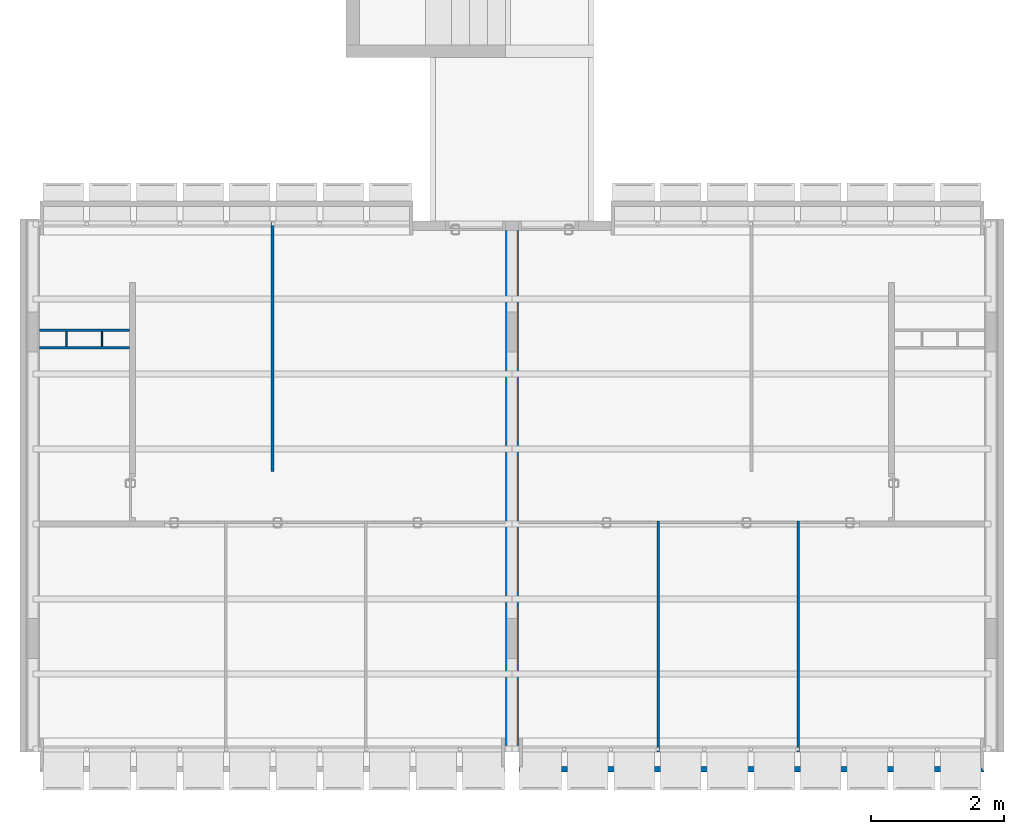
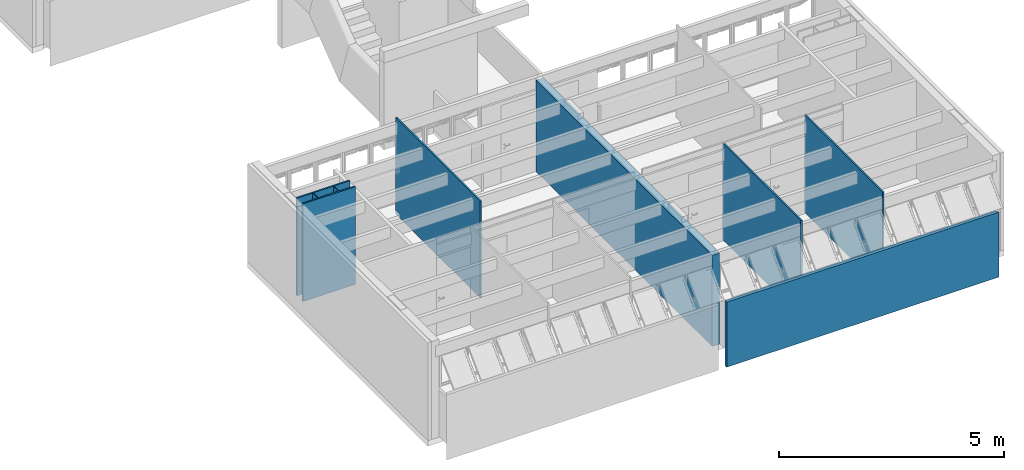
# One storey, part 22 of 41: 9 walls.
"""IFC4 building model written with IfcOpenShell, lengths in millimetres."""

from ifc_helpers import new_model, entity, si_unit, converted_unit, derived_unit, direction, frame, origin_with_axes, place, context, subcontext, project, spatial, line, indexed_curve, outline, extrude, material, layer, layer_set, layer_usage, type_object, element, save


model = new_model("IFC4")

# Units and contexts
model_context = context("Model", 3, precision=0.01, world=origin_with_axes(), true_north=direction((0.0, 1.0)))
body_context = subcontext(model_context, "Body", "Model", "MODEL_VIEW")
ifc_project = project(units=[si_unit("LENGTHUNIT", "METRE", prefix="MILLI"), si_unit("AREAUNIT", "SQUARE_METRE"), si_unit("VOLUMEUNIT", "CUBIC_METRE"), converted_unit("PLANEANGLEUNIT", "DEGREE", entity("IfcPlaneAngleMeasure", 0.0174532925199), si_unit("PLANEANGLEUNIT", "RADIAN"), dimensions=[0, 0, 0, 0, 0, 0, 0]), converted_unit("TIMEUNIT", "Year", entity("IfcTimeMeasure", 31556926.0), si_unit("TIMEUNIT", "SECOND"), dimensions=[0, 0, 1, 0, 0, 0, 0]), si_unit("MASSUNIT", "GRAM", prefix="KILO"), si_unit("THERMODYNAMICTEMPERATUREUNIT", "DEGREE_CELSIUS"), si_unit("LUMINOUSINTENSITYUNIT", "LUMEN"), si_unit("ENERGYUNIT", "JOULE", prefix="MEGA"), derived_unit("THERMALCONDUCTANCEUNIT", [(si_unit("POWERUNIT", "WATT"), 1), (si_unit("LENGTHUNIT", "METRE"), -1), (si_unit("THERMODYNAMICTEMPERATUREUNIT", "KELVIN"), -1)]), derived_unit("SPECIFICHEATCAPACITYUNIT", [(si_unit("ENERGYUNIT", "JOULE"), 1), (si_unit("MASSUNIT", "GRAM", prefix="KILO"), -1), (si_unit("THERMODYNAMICTEMPERATUREUNIT", "KELVIN"), -1)]), derived_unit("MASSDENSITYUNIT", [(si_unit("MASSUNIT", "GRAM", prefix="KILO"), 1), (si_unit("VOLUMEUNIT", "CUBIC_METRE"), -1)])], contexts=[model_context])

# Site, building, storey
site_placement = place(None, origin_with_axes())
site = spatial("IfcSite", under=ifc_project, at=site_placement, Name="Local", CompositionType="ELEMENT")
building_placement = place(site_placement, origin_with_axes())
building = spatial("IfcBuilding", under=site, at=building_placement, Name="Construção", CompositionType="ELEMENT")
storey_placement = place(building_placement, frame((0.0, 0.0, 2650.0), z_axis=(0.0, 0.0, 1.0), x_axis=(1.0, 0.0, 0.0)))
storey = spatial("IfcBuildingStorey", under=building, at=storey_placement, Name="Segundo Pavimento", CompositionType="ELEMENT", Elevation=2650.0)

# Walls
ifc_material_1 = material(Name="GENÉRICO - VEDAÇÃO EXTERNA")
ifc_layer_1 = layer(ifc_material_1, 190.0, ventilated="UNKNOWN", Name="GENÉRICO - VEDAÇÃO EXTERNA")
ifc_layer_set_1 = layer_set([ifc_layer_1], Name="GENÉRICO - VEDAÇÃO EXTERNA 190")
ifc_layer_usage_1 = layer_usage(ifc_layer_set_1, "AXIS2", "NEGATIVE", 0.0)
wall_type_1 = type_object("IfcWallType", Name="GENÉRICO - VEDAÇÃO EXTERNA 190", PredefinedType="NOTDEFINED")
wall_1_placement = place(storey_placement, frame((7480.0, 8125.0, 0.0), z_axis=(0.0, 0.0, 1.0), x_axis=(0.0, -1.0, 0.0)))
element("IfcWall", 1, at=wall_1_placement, inside=storey, type_object=wall_type_1, material=ifc_layer_usage_1, Name="CIRC2-PAREDE-026", PredefinedType="NOTDEFINED", context=body_context, shape_type="SweptSolid", body=[
    extrude(outline(indexed_curve([(0.0, -190.0), (7825.0, -190.0), (7825.0, 0.0), (0.0, 0.0)], segments=[line(1, 2, 3, 4, 1)])), origin_with_axes(), (0.0, 0.0, 1.0), 2470.0),
])
ifc_layer_2 = layer(ifc_material_1, 40.0, ventilated="UNKNOWN", Name="GENÉRICO - VEDAÇÃO EXTERNA")
ifc_layer_set_2 = layer_set([ifc_layer_2], Name="GENÉRICO - VEDAÇÃO EXTERNA 40")
ifc_layer_usage_2 = layer_usage(ifc_layer_set_2, "AXIS2", "NEGATIVE", 40.0)
wall_type_2 = type_object("IfcWallType", Name="GENÉRICO - VEDAÇÃO EXTERNA 40", PredefinedType="NOTDEFINED")
wall_2_placement = place(storey_placement, frame((3810.0, 4505.0, 0.0), z_axis=(0.0, 0.0, 1.0), x_axis=(0.0, 1.0, 0.0)))
element("IfcWall", 2, at=wall_2_placement, inside=storey, type_object=wall_type_2, material=ifc_layer_usage_2, Name="APTO5-PAREDE-003", PredefinedType="NOTDEFINED", context=body_context, shape_type="SweptSolid", body=[
    extrude(outline(indexed_curve([(0.0, 0.0), (3750.0, 0.0), (3750.0, 40.0), (0.0, 40.0)], segments=[line(1, 2, 3, 4, 1)])), origin_with_axes(), (0.0, 0.0, 1.0), 2620.0),
])
ifc_layer_usage_3 = layer_usage(ifc_layer_set_2, "AXIS2", "NEGATIVE", 40.0)
wall_3_placement = place(storey_placement, frame((290.0, 6345.0, 0.0), z_axis=(0.0, 0.0, 1.0), x_axis=(1.0, 0.0, 0.0)))
element("IfcWall", 3, at=wall_3_placement, inside=storey, type_object=wall_type_2, material=ifc_layer_usage_3, Name="APTO5-PAREDE-011", PredefinedType="NOTDEFINED", context=body_context, shape_type="SweptSolid", body=[
    extrude(outline(indexed_curve([(0.0, 0.0), (1350.0, 0.0), (1350.0, 40.0), (0.0, 40.0)], segments=[line(1, 2, 3, 4, 1)])), origin_with_axes(), (0.0, 0.0, 1.0), 2650.0),
])
ifc_layer_usage_4 = layer_usage(ifc_layer_set_2, "AXIS2", "NEGATIVE", 40.0)
wall_4_placement = place(storey_placement, frame((1730.0, 6645.0, 0.0), z_axis=(0.0, 0.0, 1.0), x_axis=(-1.0, 0.0, 0.0)))
element("IfcWall", 4, at=wall_4_placement, inside=storey, type_object=wall_type_2, material=ifc_layer_usage_4, Name="APTO5-PAREDE-010", PredefinedType="NOTDEFINED", context=body_context, shape_type="SweptSolid", body=[
    extrude(outline(indexed_curve([(90.0, 0.0), (1440.0, 0.0), (1440.0, 40.0), (90.0, 40.0)], segments=[line(1, 2, 3, 4, 1)])), origin_with_axes(), (0.0, 0.0, 1.0), 2650.0),
])
ifc_layer_usage_5 = layer_usage(ifc_layer_set_2, "AXIS2", "POSITIVE", 0.0)
wall_5_placement = place(storey_placement, frame((9560.0, 3765.0, 0.0), z_axis=(0.0, 0.0, 1.0), x_axis=(0.0, -1.0, 0.0)))
element("IfcWall", 5, at=wall_5_placement, inside=storey, type_object=wall_type_2, material=ifc_layer_usage_5, Name="APTO6-PAREDE-005", PredefinedType="NOTDEFINED", context=body_context, shape_type="SweptSolid", body=[
    extrude(outline(indexed_curve([(0.0, 0.0), (3465.0, 0.0), (3465.0, 40.0), (0.0, 40.0)], segments=[line(1, 2, 3, 4, 1)])), origin_with_axes(), (0.0, 0.0, 1.0), 2620.0),
])
ifc_layer_usage_6 = layer_usage(ifc_layer_set_2, "AXIS2", "POSITIVE", 0.0)
wall_6_placement = place(storey_placement, frame((11660.0, 3765.0, 0.0), z_axis=(0.0, 0.0, 1.0), x_axis=(0.0, -1.0, 0.0)))
element("IfcWall", 6, at=wall_6_placement, inside=storey, type_object=wall_type_2, material=ifc_layer_usage_6, Name="APTO6-PAREDE-007", PredefinedType="NOTDEFINED", context=body_context, shape_type="SweptSolid", body=[
    extrude(outline(indexed_curve([(0.0, 0.0), (3465.0, 0.0), (3465.0, 40.0), (0.0, 40.0)], segments=[line(1, 2, 3, 4, 1)])), origin_with_axes(), (0.0, 0.0, 1.0), 2650.0),
])
ifc_layer_3 = layer(ifc_material_1, 20.0, ventilated="UNKNOWN", Name="GENÉRICO - VEDAÇÃO EXTERNA")
ifc_layer_set_3 = layer_set([ifc_layer_3], Name="GENÉRICO - VEDAÇÃO EXTERNA 20")
ifc_layer_usage_7 = layer_usage(ifc_layer_set_3, "AXIS2", "NEGATIVE", 20.0)
wall_type_3 = type_object("IfcWallType", Name="GENÉRICO - VEDAÇÃO EXTERNA 20", PredefinedType="NOTDEFINED")
wall_7_placement = place(storey_placement, frame((710.0, 6345.0, 0.0), z_axis=(0.0, 0.0, 1.0), x_axis=(0.0, 1.0, 0.0)))
element("IfcWall", 7, at=wall_7_placement, inside=storey, type_object=wall_type_3, material=ifc_layer_usage_7, Name="APTO5-PAREDE-009", PredefinedType="NOTDEFINED", context=body_context, shape_type="SweptSolid", body=[
    extrude(outline(indexed_curve([(40.0, 0.0), (260.0, 0.0), (260.0, 20.0), (40.0, 20.0)], segments=[line(1, 2, 3, 4, 1)])), origin_with_axes(), (0.0, 0.0, 1.0), 2650.0),
])
ifc_layer_usage_8 = layer_usage(ifc_layer_set_3, "AXIS2", "NEGATIVE", 0.0)
wall_8_placement = place(storey_placement, frame((1240.0, 6645.0, 0.0), z_axis=(0.0, 0.0, 1.0), x_axis=(0.0, -1.0, 0.0)))
element("IfcWall", 8, at=wall_8_placement, inside=storey, type_object=wall_type_3, material=ifc_layer_usage_8, Name="APTO5-PAREDE-008", PredefinedType="NOTDEFINED", context=body_context, shape_type="SweptSolid", body=[
    extrude(outline(indexed_curve([(40.0, -20.0), (260.0, -20.0), (260.0, 0.0), (40.0, 0.0)], segments=[line(1, 2, 3, 4, 1)])), origin_with_axes(), (0.0, 0.0, 1.0), 2650.0),
])
ifc_material_2 = material(Name="Concreto Armado Moldado in Loco - Estrutural")
ifc_layer_4 = layer(ifc_material_2, 80.0, ventilated="UNKNOWN", Name="Concreto Armado Moldado in Loco - Estrutural")
ifc_layer_set_4 = layer_set([ifc_layer_4], Name="Concreto Armado Moldado in Loco - Estrutural 80")
ifc_layer_usage_9 = layer_usage(ifc_layer_set_4, "AXIS2", "NEGATIVE", 80.0)
wall_type_4 = type_object("IfcWallType", Name="Concreto Armado Moldado in Loco - Estrutural 80", PredefinedType="NOTDEFINED")
wall_9_placement = place(storey_placement, frame((14470.0, 80.0, -450.0), z_axis=(0.0, 0.0, 1.0), x_axis=(-1.0, 0.0, 0.0)))
element("IfcWall", 9, at=wall_9_placement, inside=storey, type_object=wall_type_4, material=ifc_layer_usage_9, Name="APTO6-PAREDE-015", PredefinedType="NOTDEFINED", context=body_context, shape_type="SweptSolid", body=[
    extrude(outline(indexed_curve([(50.0, 0.0), (6980.0, 0.0), (6980.0, 80.0), (0.0, 80.0)], segments=[line(1, 2, 3, 4, 1)])), origin_with_axes(), (0.0, 0.0, 1.0), 1765.0),
])

save(model, "model.ifc")
